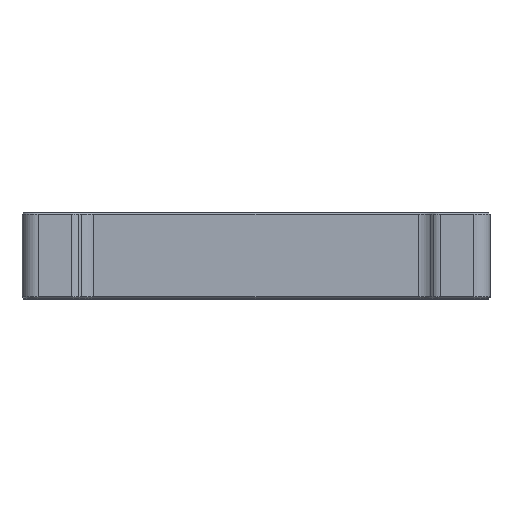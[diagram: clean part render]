
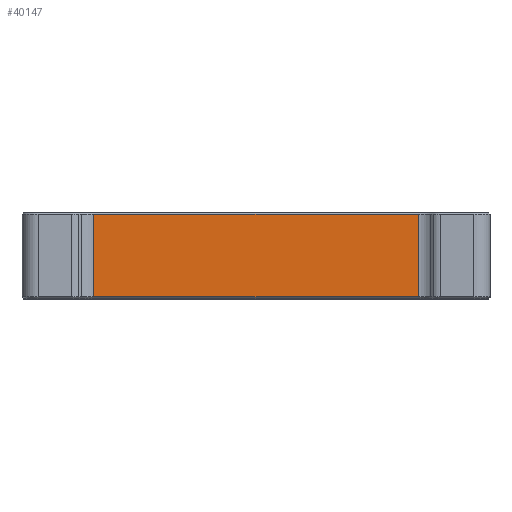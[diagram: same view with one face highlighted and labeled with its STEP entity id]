
A CAD part, top view. The second image highlights one B-rep face of the part: STEP entity #40147.
In plain terms, the highlighted planar face has unit normal (0, 0, 1).
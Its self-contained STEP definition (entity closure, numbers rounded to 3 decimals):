
#2600 = DIRECTION ( 'NONE',  ( -1., 0., 0. ) ) ;
#3159 = VECTOR ( 'NONE', #46578, 1000. ) ;
#7114 = EDGE_CURVE ( 'NONE', #19787, #74113, #15763, .T. ) ;
#7142 = DIRECTION ( 'NONE',  ( 0., 1., 0. ) ) ;
#15763 = LINE ( 'NONE', #30663, #3159 ) ;
#19787 = VERTEX_POINT ( 'NONE', #24259 ) ;
#19869 = ORIENTED_EDGE ( 'NONE', *, *, #7114, .T. ) ;
#23495 = VERTEX_POINT ( 'NONE', #70210 ) ;
#24259 = CARTESIAN_POINT ( 'NONE',  ( 13.325, 15.7, 91. ) ) ;
#24286 = EDGE_CURVE ( 'NONE', #23495, #50516, #79907, .T. ) ;
#29178 = FACE_OUTER_BOUND ( 'NONE', #74620, .T. ) ;
#30663 = CARTESIAN_POINT ( 'NONE',  ( 13.325, 0., 91. ) ) ;
#38173 = DIRECTION ( 'NONE',  ( -1., 0., 0. ) ) ;
#40147 = ADVANCED_FACE ( 'NONE', ( #29178 ), #71605, .F. ) ;
#42360 = VECTOR ( 'NONE', #7142, 1000. ) ;
#43998 = CARTESIAN_POINT ( 'NONE',  ( 75.2, 15.7, 91. ) ) ;
#46578 = DIRECTION ( 'NONE',  ( 0., -1., 0. ) ) ;
#48149 = CARTESIAN_POINT ( 'NONE',  ( 73.875, 0.3, 91. ) ) ;
#48572 = VECTOR ( 'NONE', #98099, 1000. ) ;
#50516 = VERTEX_POINT ( 'NONE', #52487 ) ;
#50906 = LINE ( 'NONE', #43998, #51483 ) ;
#51483 = VECTOR ( 'NONE', #2600, 1000. ) ;
#52482 = CARTESIAN_POINT ( 'NONE',  ( 13.325, 0.3, 91. ) ) ;
#52487 = CARTESIAN_POINT ( 'NONE',  ( 73.875, 15.7, 91. ) ) ;
#59115 = EDGE_CURVE ( 'NONE', #50516, #19787, #50906, .T. ) ;
#60516 = AXIS2_PLACEMENT_3D ( 'NONE', #95534, #85449, #38173 ) ;
#65141 = LINE ( 'NONE', #48149, #48572 ) ;
#70210 = CARTESIAN_POINT ( 'NONE',  ( 73.875, 0.3, 91. ) ) ;
#71605 = PLANE ( 'NONE',  #60516 ) ;
#74113 = VERTEX_POINT ( 'NONE', #52482 ) ;
#74620 = EDGE_LOOP ( 'NONE', ( #79582, #84127, #19869, #103229 ) ) ;
#79582 = ORIENTED_EDGE ( 'NONE', *, *, #24286, .T. ) ;
#79907 = LINE ( 'NONE', #96882, #42360 ) ;
#80785 = EDGE_CURVE ( 'NONE', #74113, #23495, #65141, .T. ) ;
#84127 = ORIENTED_EDGE ( 'NONE', *, *, #59115, .T. ) ;
#85449 = DIRECTION ( 'NONE',  ( 0., 0., -1. ) ) ;
#95534 = CARTESIAN_POINT ( 'NONE',  ( 75.2, 16., 91. ) ) ;
#96882 = CARTESIAN_POINT ( 'NONE',  ( 73.875, 16., 91. ) ) ;
#98099 = DIRECTION ( 'NONE',  ( 1., 0., 0. ) ) ;
#103229 = ORIENTED_EDGE ( 'NONE', *, *, #80785, .T. ) ;
